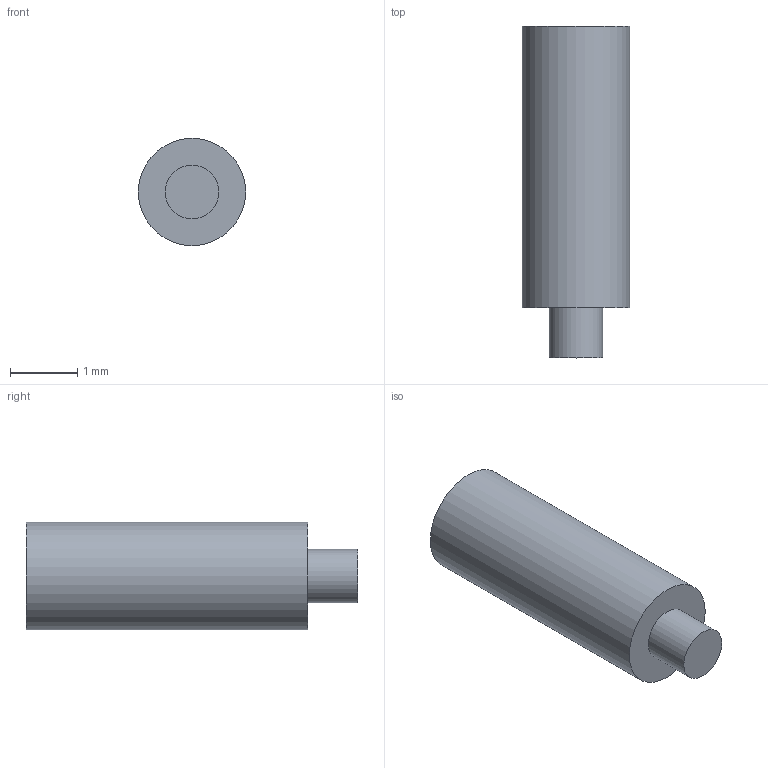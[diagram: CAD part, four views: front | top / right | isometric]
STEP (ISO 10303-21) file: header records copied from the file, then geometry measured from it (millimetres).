
FILE_DESCRIPTION(('Open CASCADE Model'),'2;1');
FILE_NAME('Open CASCADE Shape Model','2026-09-24T19:52:59',('Author'),( 'Open CASCADE'),'Open CASCADE STEP processor 7.8','Open CASCADE 7.8' ,'Unknown');
FILE_SCHEMA(('AUTOMOTIVE_DESIGN { 1 0 10303 214 1 1 1 1 }'));
Length unit declared in the file: millimetre
Products named in the file (1): Open CASCADE STEP translator 7.8 56
Bounding box: 1.6 x 4.95 x 1.6 mm (x, y, z)
Volume: 8 mm3; surface area: 30.5 mm2
Topology: 1 solids, 1 shells, 12 faces, 24 edges, 16 vertices
Faces by surface type: plane 10, cylinder 2
Full cylindrical faces by diameter (mm): 0.8 x1, 1.6 x1
Entity records: 634 total; most frequent: DIRECTION 102, CARTESIAN_POINT 101, LINE 64, VECTOR 64, ORIENTED_EDGE 48, PCURVE 48, DEFINITIONAL_REPRESENTATION 48, EDGE_CURVE 24
